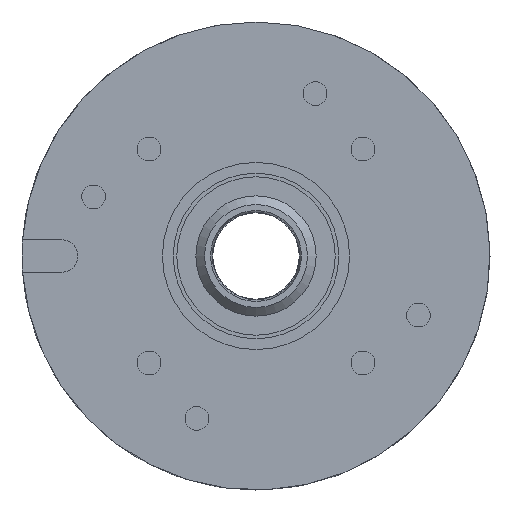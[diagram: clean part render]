
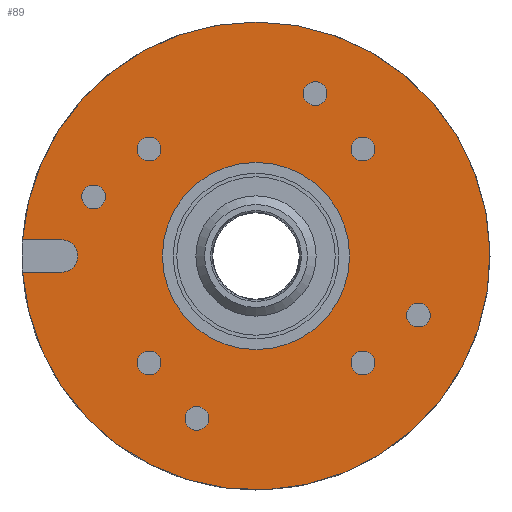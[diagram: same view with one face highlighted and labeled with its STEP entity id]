
A CAD part, left-side view. The second image highlights one B-rep face of the part: STEP entity #89.
In plain terms, the highlighted planar face has unit normal (-1, 0, 0).
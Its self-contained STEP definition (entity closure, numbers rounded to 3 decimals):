
#13 = ORIENTED_EDGE ( 'NONE', *, *, #217, .F. ) ;
#49 = CARTESIAN_POINT ( 'NONE',  ( 0., 27., -2.25 ) ) ;
#56 = EDGE_LOOP ( 'NONE', ( #508 ) ) ;
#64 = CARTESIAN_POINT ( 'NONE',  ( 0., 27., -2.25 ) ) ;
#73 = AXIS2_PLACEMENT_3D ( 'NONE', #383, #234, #1596 ) ;
#74 = CARTESIAN_POINT ( 'NONE',  ( 0., 32.422, -2.25 ) ) ;
#83 = FACE_BOUND ( 'NONE', #522, .T. ) ;
#84 = CARTESIAN_POINT ( 'NONE',  ( 0., -8.208, 24.203 ) ) ;
#89 = ADVANCED_FACE ( 'NONE', ( #158, #706, #1583, #1203, #486, #124, #805, #437, #83, #1221 ), #1390, .F. ) ;
#110 = AXIS2_PLACEMENT_3D ( 'NONE', #251, #807, #1479 ) ;
#116 = CIRCLE ( 'NONE', #456, 1.65 ) ;
#124 = FACE_BOUND ( 'NONE', #1010, .T. ) ;
#125 = EDGE_LOOP ( 'NONE', ( #580 ) ) ;
#158 = FACE_BOUND ( 'NONE', #125, .T. ) ;
#165 = AXIS2_PLACEMENT_3D ( 'NONE', #998, #185, #326 ) ;
#185 = DIRECTION ( 'NONE',  ( -1., 0., 0. ) ) ;
#194 = AXIS2_PLACEMENT_3D ( 'NONE', #337, #1157, #875 ) ;
#217 = EDGE_CURVE ( 'NONE', #448, #448, #482, .T. ) ;
#234 = DIRECTION ( 'NONE',  ( -1., 0., 0. ) ) ;
#237 = CARTESIAN_POINT ( 'NONE',  ( 0., 0., 13. ) ) ;
#240 = CARTESIAN_POINT ( 'NONE',  ( 0., -22.553, -6.558 ) ) ;
#251 = CARTESIAN_POINT ( 'NONE',  ( 0., 14.849, 14.849 ) ) ;
#277 = DIRECTION ( 'NONE',  ( 0., -1., 0. ) ) ;
#281 = VERTEX_POINT ( 'NONE', #895 ) ;
#283 = CIRCLE ( 'NONE', #531, 1.65 ) ;
#285 = AXIS2_PLACEMENT_3D ( 'NONE', #655, #377, #1325 ) ;
#286 = CARTESIAN_POINT ( 'NONE',  ( 0., 27., 2.25 ) ) ;
#319 = DIRECTION ( 'NONE',  ( 0., 1., 0. ) ) ;
#326 = DIRECTION ( 'NONE',  ( 0., 0., 1. ) ) ;
#337 = CARTESIAN_POINT ( 'NONE',  ( 0., 8.208, -22.553 ) ) ;
#348 = CARTESIAN_POINT ( 'NONE',  ( 0., 22.553, 8.208 ) ) ;
#361 = AXIS2_PLACEMENT_3D ( 'NONE', #1423, #1692, #457 ) ;
#377 = DIRECTION ( 'NONE',  ( -1., 0., 0. ) ) ;
#383 = CARTESIAN_POINT ( 'NONE',  ( 0., -22.553, -8.208 ) ) ;
#401 = EDGE_CURVE ( 'NONE', #1397, #1397, #1555, .T. ) ;
#437 = FACE_BOUND ( 'NONE', #1663, .T. ) ;
#439 = ORIENTED_EDGE ( 'NONE', *, *, #648, .T. ) ;
#448 = VERTEX_POINT ( 'NONE', #757 ) ;
#449 = CIRCLE ( 'NONE', #969, 13. ) ;
#456 = AXIS2_PLACEMENT_3D ( 'NONE', #749, #463, #729 ) ;
#457 = DIRECTION ( 'NONE',  ( 0., 0., -1. ) ) ;
#463 = DIRECTION ( 'NONE',  ( -1., 0., 0. ) ) ;
#472 = CIRCLE ( 'NONE', #1625, 1.65 ) ;
#482 = CIRCLE ( 'NONE', #165, 1.65 ) ;
#486 = FACE_BOUND ( 'NONE', #553, .T. ) ;
#496 = EDGE_CURVE ( 'NONE', #1693, #1118, #1551, .T. ) ;
#499 = CARTESIAN_POINT ( 'NONE',  ( 0., 14.849, 16.499 ) ) ;
#508 = ORIENTED_EDGE ( 'NONE', *, *, #948, .F. ) ;
#522 = EDGE_LOOP ( 'NONE', ( #1057 ) ) ;
#524 = EDGE_CURVE ( 'NONE', #816, #816, #1094, .T. ) ;
#531 = AXIS2_PLACEMENT_3D ( 'NONE', #1588, #779, #1731 ) ;
#543 = ORIENTED_EDGE ( 'NONE', *, *, #524, .F. ) ;
#553 = EDGE_LOOP ( 'NONE', ( #577 ) ) ;
#564 = DIRECTION ( 'NONE',  ( 1., 0., 0. ) ) ;
#569 = DIRECTION ( 'NONE',  ( 0., 0., -1. ) ) ;
#576 = ORIENTED_EDGE ( 'NONE', *, *, #1577, .T. ) ;
#577 = ORIENTED_EDGE ( 'NONE', *, *, #1609, .F. ) ;
#580 = ORIENTED_EDGE ( 'NONE', *, *, #401, .F. ) ;
#648 = EDGE_CURVE ( 'NONE', #731, #1693, #820, .T. ) ;
#649 = EDGE_LOOP ( 'NONE', ( #13 ) ) ;
#655 = CARTESIAN_POINT ( 'NONE',  ( 0., -14.849, -14.849 ) ) ;
#667 = ORIENTED_EDGE ( 'NONE', *, *, #496, .T. ) ;
#706 = FACE_BOUND ( 'NONE', #649, .T. ) ;
#722 = VERTEX_POINT ( 'NONE', #237 ) ;
#729 = DIRECTION ( 'NONE',  ( 0., 0., 1. ) ) ;
#731 = VERTEX_POINT ( 'NONE', #49 ) ;
#749 = CARTESIAN_POINT ( 'NONE',  ( 0., -8.208, 22.553 ) ) ;
#757 = CARTESIAN_POINT ( 'NONE',  ( 0., 14.849, -13.199 ) ) ;
#773 = CARTESIAN_POINT ( 'NONE',  ( 0., -14.849, -13.199 ) ) ;
#779 = DIRECTION ( 'NONE',  ( -1., 0., 0. ) ) ;
#781 = CARTESIAN_POINT ( 'NONE',  ( 0., 22.553, 9.858 ) ) ;
#803 = EDGE_LOOP ( 'NONE', ( #986, #576, #439, #667 ) ) ;
#805 = FACE_BOUND ( 'NONE', #56, .T. ) ;
#807 = DIRECTION ( 'NONE',  ( -1., 0., 0. ) ) ;
#816 = VERTEX_POINT ( 'NONE', #773 ) ;
#820 = LINE ( 'NONE', #64, #1326 ) ;
#857 = VERTEX_POINT ( 'NONE', #915 ) ;
#875 = DIRECTION ( 'NONE',  ( 0., 0., 1. ) ) ;
#895 = CARTESIAN_POINT ( 'NONE',  ( 0., -14.849, 16.499 ) ) ;
#912 = DIRECTION ( 'NONE',  ( 0., 0., 1. ) ) ;
#915 = CARTESIAN_POINT ( 'NONE',  ( 0., 8.208, -20.903 ) ) ;
#924 = CARTESIAN_POINT ( 'NONE',  ( 0., 0., 0. ) ) ;
#948 = EDGE_CURVE ( 'NONE', #1749, #1749, #1323, .T. ) ;
#965 = EDGE_CURVE ( 'NONE', #281, #281, #283, .T. ) ;
#969 = AXIS2_PLACEMENT_3D ( 'NONE', #1607, #1452, #1320 ) ;
#986 = ORIENTED_EDGE ( 'NONE', *, *, #1194, .T. ) ;
#994 = DIRECTION ( 'NONE',  ( -1., 0., 0. ) ) ;
#998 = CARTESIAN_POINT ( 'NONE',  ( 0., 14.849, -14.849 ) ) ;
#1010 = EDGE_LOOP ( 'NONE', ( #1436 ) ) ;
#1019 = DIRECTION ( 'NONE',  ( 0., 0., 1. ) ) ;
#1043 = CARTESIAN_POINT ( 'NONE',  ( 0., 32.422, 2.25 ) ) ;
#1057 = ORIENTED_EDGE ( 'NONE', *, *, #1092, .F. ) ;
#1092 = EDGE_CURVE ( 'NONE', #722, #722, #449, .T. ) ;
#1094 = CIRCLE ( 'NONE', #285, 1.65 ) ;
#1112 = CARTESIAN_POINT ( 'NONE',  ( 0., 32.5, 0. ) ) ;
#1118 = VERTEX_POINT ( 'NONE', #1043 ) ;
#1138 = ORIENTED_EDGE ( 'NONE', *, *, #1675, .F. ) ;
#1145 = AXIS2_PLACEMENT_3D ( 'NONE', #924, #1202, #912 ) ;
#1157 = DIRECTION ( 'NONE',  ( -1., 0., 0. ) ) ;
#1194 = EDGE_CURVE ( 'NONE', #1118, #1428, #1529, .T. ) ;
#1202 = DIRECTION ( 'NONE',  ( -1., 0., 0. ) ) ;
#1203 = FACE_BOUND ( 'NONE', #1223, .T. ) ;
#1221 = FACE_OUTER_BOUND ( 'NONE', #803, .T. ) ;
#1223 = EDGE_LOOP ( 'NONE', ( #1581 ) ) ;
#1276 = CIRCLE ( 'NONE', #194, 1.65 ) ;
#1303 = VERTEX_POINT ( 'NONE', #781 ) ;
#1320 = DIRECTION ( 'NONE',  ( 0., 0., 1. ) ) ;
#1323 = CIRCLE ( 'NONE', #73, 1.65 ) ;
#1325 = DIRECTION ( 'NONE',  ( 0., 0., 1. ) ) ;
#1326 = VECTOR ( 'NONE', #319, 1000. ) ;
#1332 = EDGE_CURVE ( 'NONE', #1359, #1359, #116, .T. ) ;
#1359 = VERTEX_POINT ( 'NONE', #84 ) ;
#1390 = PLANE ( 'NONE',  #1599 ) ;
#1397 = VERTEX_POINT ( 'NONE', #499 ) ;
#1423 = CARTESIAN_POINT ( 'NONE',  ( 0., 27., 0. ) ) ;
#1428 = VERTEX_POINT ( 'NONE', #286 ) ;
#1436 = ORIENTED_EDGE ( 'NONE', *, *, #1332, .F. ) ;
#1452 = DIRECTION ( 'NONE',  ( -1., 0., 0. ) ) ;
#1479 = DIRECTION ( 'NONE',  ( 0., 0., 1. ) ) ;
#1494 = CARTESIAN_POINT ( 'NONE',  ( 0., 32.422, 2.25 ) ) ;
#1529 = LINE ( 'NONE', #1494, #1652 ) ;
#1551 = CIRCLE ( 'NONE', #1145, 32.5 ) ;
#1555 = CIRCLE ( 'NONE', #110, 1.65 ) ;
#1559 = EDGE_LOOP ( 'NONE', ( #543 ) ) ;
#1577 = EDGE_CURVE ( 'NONE', #1428, #731, #1630, .T. ) ;
#1581 = ORIENTED_EDGE ( 'NONE', *, *, #965, .F. ) ;
#1583 = FACE_BOUND ( 'NONE', #1559, .T. ) ;
#1588 = CARTESIAN_POINT ( 'NONE',  ( 0., -14.849, 14.849 ) ) ;
#1596 = DIRECTION ( 'NONE',  ( 0., 0., 1. ) ) ;
#1599 = AXIS2_PLACEMENT_3D ( 'NONE', #1112, #564, #569 ) ;
#1607 = CARTESIAN_POINT ( 'NONE',  ( 0., 0., 0. ) ) ;
#1609 = EDGE_CURVE ( 'NONE', #1303, #1303, #472, .T. ) ;
#1625 = AXIS2_PLACEMENT_3D ( 'NONE', #348, #994, #1019 ) ;
#1630 = CIRCLE ( 'NONE', #361, 2.25 ) ;
#1652 = VECTOR ( 'NONE', #277, 1000. ) ;
#1663 = EDGE_LOOP ( 'NONE', ( #1138 ) ) ;
#1675 = EDGE_CURVE ( 'NONE', #857, #857, #1276, .T. ) ;
#1692 = DIRECTION ( 'NONE',  ( 1., 0., 0. ) ) ;
#1693 = VERTEX_POINT ( 'NONE', #74 ) ;
#1731 = DIRECTION ( 'NONE',  ( 0., 0., 1. ) ) ;
#1749 = VERTEX_POINT ( 'NONE', #240 ) ;
